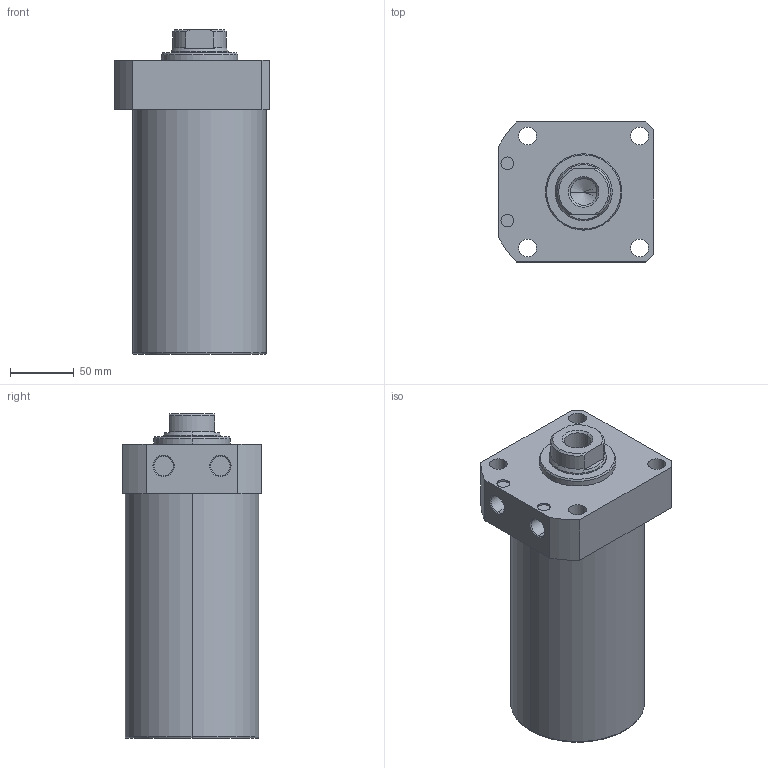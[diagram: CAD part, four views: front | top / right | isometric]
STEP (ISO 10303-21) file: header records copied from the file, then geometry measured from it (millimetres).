
FILE_DESCRIPTION (( 'STEP AP203' ), '1' );
FILE_NAME ('CLLR-105CA-145.STEP', '2019-12-18T07:19:06', ( '' ), ( '' ), 'SwSTEP 2.0', 'SolidWorks 2015', '' );
FILE_SCHEMA (( 'CONFIG_CONTROL_DESIGN' ));
Length unit declared in the file: millimetre
Products named in the file (1): CLLR-105CA-145
Bounding box: 122 x 110 x 255 mm (x, y, z)
Volume: 2159689.3 mm3; surface area: 121919.8 mm2
Topology: 1 solids, 1 shells, 65 faces, 153 edges, 96 vertices
Faces by surface type: cylinder 29, plane 19, cone 15, torus 2
Entity records: 1971 total; most frequent: DIRECTION 352, CARTESIAN_POINT 337, ORIENTED_EDGE 302, EDGE_CURVE 151, AXIS2_PLACEMENT_3D 143, VERTEX_POINT 96, EDGE_LOOP 81, CIRCLE 77
